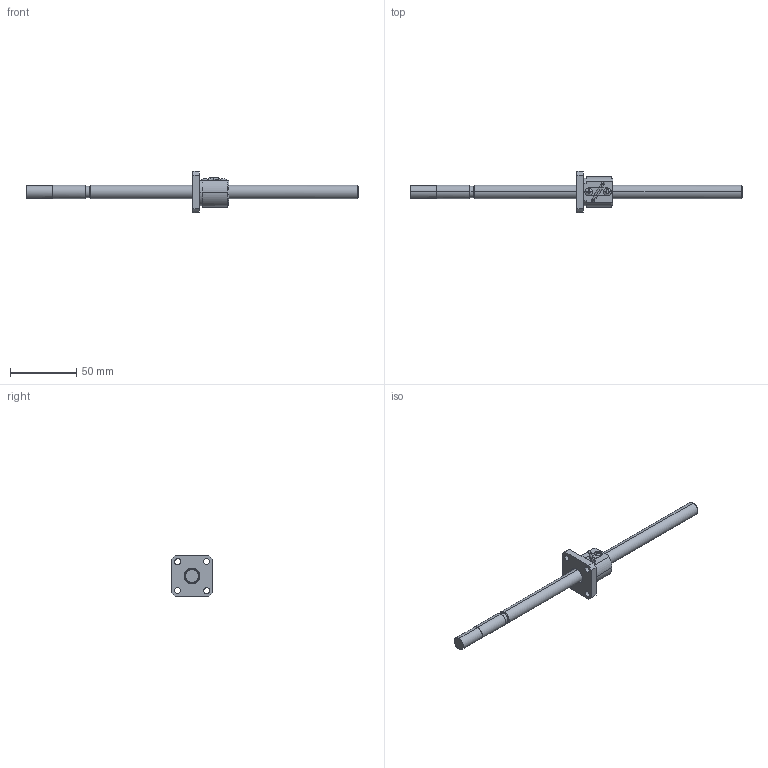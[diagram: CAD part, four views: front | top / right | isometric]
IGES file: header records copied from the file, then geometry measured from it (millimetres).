
Global section: file name: No Iges File Name specified; native system: AutoDesk Inventor R10; preprocessor: AutoDesk Inventor Iges Exporter R10; author: No Author specified; organization: No Organization specified; date: 20101224.135745; units: millimetre
Bounding box: 250 x 31 x 31 mm (x, y, z)
Surface area: 13185.7 mm2 (no closed solid volume)
Topology: 0 solids, 0 shells, 121 faces, 858 edges, 858 vertices
Faces by surface type: bspline 121
